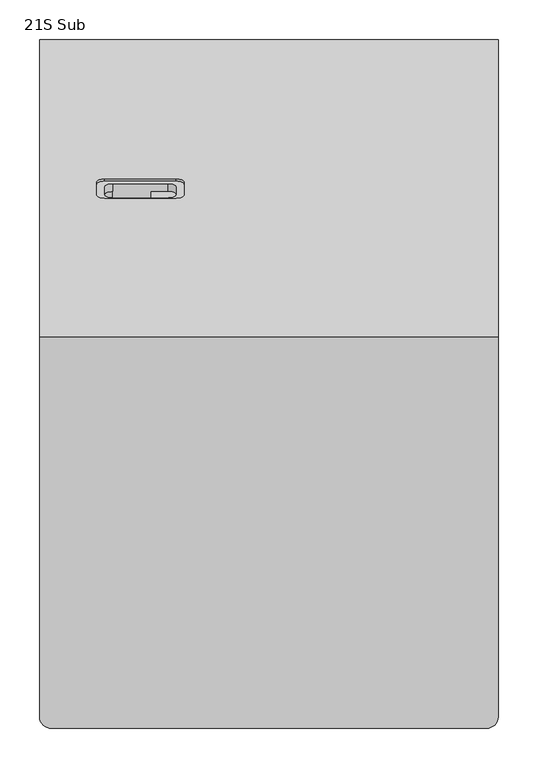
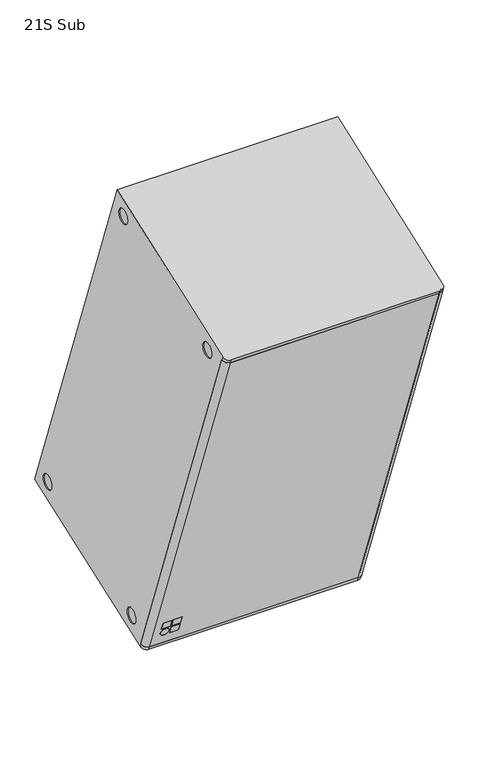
"""IFC4 building model written with IfcOpenShell, lengths in millimetres: proxy geometry, d&b xS-Series 21S Subwoofer : 21S Sub."""

from ifc_helpers import new_model, si_unit, point, frame, frame_2d, origin, place, context, project, spatial, polyline, circle_curve, trimmed, segment, composite_curve, outline, extrude, source, transform, mapped, element, save
from ifc_brep_helpers import plane_surface, cylinder_surface, revolved_surface, advanced_brep


def proxy_21s_sub_991d3e1e(model_context):
    return source(origin(), model_context, "Body", "SolidModel", [
        advanced_brep(
        [(-275.0, -101.3990461, -611.5622317), (-290.0, -87.3036568, -606.4319295), (-285.0, -87.3036568, -606.4319295), (-275.0, -96.700583, -609.852131), (275.0, -96.700583, -609.852131), (285.0, -87.3036568, -606.4319295), (290.0, -87.3036568, -606.4319295), (275.0, -101.3990461, -611.5622317), (-275.0, -470.7808009, 403.3057988), (275.0, -470.7808009, 403.3057988), (290.0, -456.6854116, 408.4361009), (285.0, -456.6854116, 408.4361009), (275.0, -466.0823378, 405.0158995), (-275.0, -466.0823378, 405.0158995), (-285.0, -456.6854116, 408.4361009), (-290.0, -456.6854116, 408.4361009), (-231.6666667, -128.7606575, -536.386822), (-231.6666667, -120.7801875, -558.3129832), (-255.0, -120.7801875, -558.3129832), (-255.0, -128.7606575, -536.386822), (-205.0, -128.7606575, -536.386822), (-205.0, -120.7801875, -558.3129832), (-228.3333333, -120.7801875, -558.3129832), (-228.3333333, -128.7606575, -536.386822), (-205.0, -119.6401204, -561.4452919), (-205.0, -111.6596504, -583.3714531), (-228.3333333, -111.6596504, -583.3714531), (-228.3333333, -119.6401204, -561.4452919), (-231.6666667, -115.6498854, -572.4083725), (-255.0, -115.6498854, -572.4083725), (-231.6666667, -116.0817244, -556.6028825), (-231.6666667, -124.0621944, -534.6767213), (-255.0, -124.0621944, -534.6767213), (-255.0, -116.0817244, -556.6028825), (-205.0, -116.0817244, -556.6028825), (-205.0, -124.0621944, -534.6767213), (-228.3333333, -124.0621944, -534.6767213), (-228.3333333, -116.0817244, -556.6028825), (-205.0, -106.9611873, -581.6613524), (-205.0, -114.9416573, -559.7351912), (-228.3333333, -114.9416573, -559.7351912), (-228.3333333, -106.9611873, -581.6613524), (-255.0, -110.9514223, -570.6982718), (-231.6666667, -110.9514223, -570.6982718)],
        [
            (0, 1, circle_curve(frame((-275.0, -87.3036568, -606.4319295), z_axis=(0.0, 0.3420201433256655, -0.9396926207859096), x_axis=(0.0, 0.9396926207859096, 0.3420201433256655)), 15.0)),
            (1, 2),
            (2, 3, circle_curve(frame((-275.0, -87.3036568, -606.4319295), z_axis=(0.0, -0.3420201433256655, 0.9396926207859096), x_axis=(0.0, 0.9396926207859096, 0.3420201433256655)), 10.0)),
            (3, 4),
            (4, 5, circle_curve(frame((275.0, -87.3036568, -606.4319295), z_axis=(0.0, -0.3420201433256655, 0.9396926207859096), x_axis=(0.0, 0.9396926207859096, 0.3420201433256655)), 10.0)),
            (5, 6),
            (6, 7, circle_curve(frame((275.0, -87.3036568, -606.4319295), z_axis=(0.0, 0.3420201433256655, -0.9396926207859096), x_axis=(0.0, 0.9396926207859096, 0.3420201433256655)), 15.0)),
            (7, 0),
            (8, 9),
            (9, 10, circle_curve(frame((275.0, -456.6854116, 408.4361009), z_axis=(0.0, -0.3420201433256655, 0.9396926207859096), x_axis=(0.0, 0.9396926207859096, 0.3420201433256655)), 15.0)),
            (10, 11),
            (11, 12, circle_curve(frame((275.0, -456.6854116, 408.4361009), z_axis=(0.0, 0.3420201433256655, -0.9396926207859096), x_axis=(0.0, 0.9396926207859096, 0.3420201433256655)), 10.0)),
            (12, 13),
            (13, 14, circle_curve(frame((-275.0, -456.6854116, 408.4361009), z_axis=(0.0, 0.3420201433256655, -0.9396926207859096), x_axis=(0.0, 0.9396926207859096, 0.3420201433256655)), 10.0)),
            (14, 15),
            (15, 8, circle_curve(frame((-275.0, -456.6854116, 408.4361009), z_axis=(0.0, -0.3420201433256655, 0.9396926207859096), x_axis=(0.0, 0.9396926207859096, 0.3420201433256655)), 15.0)),
            (6, 10),
            (9, 7),
            (8, 0),
            (16, 17),
            (17, 18),
            (18, 19),
            (19, 16),
            (20, 21),
            (21, 22),
            (22, 23),
            (23, 20),
            (24, 25),
            (25, 26),
            (26, 27),
            (27, 24),
            (28, 29, circle_curve(frame((-243.3333333, -115.6498854, -572.4083725), z_axis=(0.0, 0.9396926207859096, 0.3420201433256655), x_axis=(-1.0, 0.0, 0.0)), 11.6666667)),
            (29, 28, circle_curve(frame((-243.3333333, -115.6498854, -572.4083725), z_axis=(0.0, 0.9396926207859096, 0.3420201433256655), x_axis=(-1.0, 0.0, 0.0)), 11.6666667)),
            (15, 1),
            (14, 2),
            (13, 3),
            (12, 4),
            (30, 31),
            (31, 32),
            (32, 33),
            (33, 30),
            (34, 35),
            (35, 36),
            (36, 37),
            (37, 34),
            (38, 39),
            (39, 40),
            (40, 41),
            (41, 38),
            (42, 43, circle_curve(frame((-243.3333333, -110.9514223, -570.6982718), z_axis=(0.0, -0.9396926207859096, -0.3420201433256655), x_axis=(-1.0, 0.0, 0.0)), 11.6666667)),
            (43, 42, circle_curve(frame((-243.3333333, -110.9514223, -570.6982718), z_axis=(0.0, -0.9396926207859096, -0.3420201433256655), x_axis=(-1.0, 0.0, 0.0)), 11.6666667)),
            (11, 5),
            (16, 31),
            (30, 17),
            (33, 18),
            (32, 19),
            (20, 35),
            (34, 21),
            (37, 22),
            (36, 23),
            (24, 39),
            (38, 25),
            (41, 26),
            (40, 27),
            (28, 43),
            (42, 29),
        ],
        [
            plane_surface(frame((-275.0, -73.2082675, -601.3016274), z_axis=(0.0, 0.3420201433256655, -0.9396926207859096), x_axis=(1.0, 0.0, 0.0))),
            plane_surface(frame((-275.0, -442.5900222, 413.5664031), z_axis=(0.0, -0.3420201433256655, 0.9396926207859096), x_axis=(-1.0, 0.0, 0.0))),
            cylinder_surface(frame((275.0, -456.6854116, 408.4361009), z_axis=(0.0, 0.3420201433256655, -0.9396926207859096), x_axis=(0.0, 0.9396926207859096, 0.3420201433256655)), 15.0),
            plane_surface(frame((275.0, -101.3990461, -611.5622317), z_axis=(0.0, -0.9396926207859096, -0.3420201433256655), x_axis=(0.0, -0.3420201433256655, 0.9396926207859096))),
            cylinder_surface(frame((-275.0, -456.6854116, 408.4361009), z_axis=(0.0, 0.3420201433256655, -0.9396926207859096), x_axis=(0.0, 0.9396926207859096, 0.3420201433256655)), 15.0),
            plane_surface(frame((-290.0, -87.3036568, -606.4319295), z_axis=(0.0, 0.9396926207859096, 0.3420201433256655), x_axis=(0.0, -0.3420201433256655, 0.9396926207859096))),
            revolved_surface(polyline([(-275.0, -447.28848540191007, 411.8563023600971), (-275.0, -77.9067305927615, -603.0117281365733)]), (-275.0, -456.6854116, 408.4361009), (0.0, -0.3420201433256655, 0.9396926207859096)),
            plane_surface(frame((-275.0, -96.700583, -609.852131), z_axis=(0.0, 0.9396926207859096, 0.3420201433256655), x_axis=(0.0, -0.3420201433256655, 0.9396926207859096))),
            revolved_surface(polyline([(275.0, -447.28848540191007, 411.8563023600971), (275.0, -77.9067305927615, -603.0117281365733)]), (275.0, -456.6854116, 408.4361009), (0.0, -0.3420201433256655, 0.9396926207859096)),
            plane_surface(frame((285.0, -87.3036568, -606.4319295), z_axis=(0.0, 0.9396926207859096, 0.3420201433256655), x_axis=(0.0, -0.3420201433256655, 0.9396926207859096))),
            plane_surface(frame((-231.6666667, -120.7801875, -558.3129832), z_axis=(-1.0000000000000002, 0.0, 0.0), x_axis=(0.0, 0.9396926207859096, 0.3420201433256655))),
            plane_surface(frame((-255.0, -120.7801875, -558.3129832), z_axis=(0.0, -0.3420201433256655, 0.9396926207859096), x_axis=(0.0, 0.9396926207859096, 0.3420201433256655))),
            plane_surface(frame((-255.0, -128.7606575, -536.386822), z_axis=(1.0000000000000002, 0.0, 0.0), x_axis=(0.0, 0.9396926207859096, 0.3420201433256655))),
            plane_surface(frame((-231.6666667, -128.7606575, -536.386822), z_axis=(0.0, 0.3420201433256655, -0.9396926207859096), x_axis=(0.0, 0.9396926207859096, 0.3420201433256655))),
            plane_surface(frame((-205.0, -120.7801875, -558.3129832), z_axis=(-1.0000000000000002, 0.0, 0.0), x_axis=(0.0, 0.9396926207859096, 0.3420201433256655))),
            plane_surface(frame((-228.3333333, -120.7801875, -558.3129832), z_axis=(0.0, -0.3420201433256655, 0.9396926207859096), x_axis=(0.0, 0.9396926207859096, 0.3420201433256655))),
            plane_surface(frame((-228.3333333, -128.7606575, -536.386822), z_axis=(1.0000000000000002, 0.0, 0.0), x_axis=(0.0, 0.9396926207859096, 0.3420201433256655))),
            plane_surface(frame((-205.0, -128.7606575, -536.386822), z_axis=(0.0, 0.3420201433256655, -0.9396926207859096), x_axis=(0.0, 0.9396926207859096, 0.3420201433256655))),
            plane_surface(frame((-205.0, -111.6596504, -583.3714531), z_axis=(-1.0000000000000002, 0.0, 0.0), x_axis=(0.0, 0.9396926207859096, 0.3420201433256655))),
            plane_surface(frame((-228.3333333, -111.6596504, -583.3714531), z_axis=(0.0, -0.3420201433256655, 0.9396926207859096), x_axis=(0.0, 0.9396926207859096, 0.3420201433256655))),
            plane_surface(frame((-228.3333333, -119.6401204, -561.4452919), z_axis=(1.0000000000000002, 0.0, 0.0), x_axis=(0.0, 0.9396926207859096, 0.3420201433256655))),
            plane_surface(frame((-205.0, -119.6401204, -561.4452919), z_axis=(0.0, 0.3420201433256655, -0.9396926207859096), x_axis=(0.0, 0.9396926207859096, 0.3420201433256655))),
            revolved_surface(polyline([(-255.0, -115.6498854, -572.4083725), (-255.0, -110.95142230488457, -570.6982717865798)]), (-243.3333333, -115.6498854, -572.4083725), (0.0, -0.9396926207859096, -0.3420201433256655)),
        ],
        [
            (0, [[1, 2, 3, 4, 5, 6, 7, 8]]),
            (1, [[9, 10, 11, 12, 13, 14, 15, 16]]),
            (2, [[-7, 17, -10, 18]]),
            (3, [[-8, -18, -9, 19], [20, 21, 22, 23], [24, 25, 26, 27], [28, 29, 30, 31], [32, 33]]),
            (4, [[-1, -19, -16, 34]]),
            (5, [[-2, -34, -15, 35]]),
            (6, [[-3, -35, -14, 36]]),
            (7, [[-4, -36, -13, 37], [38, 39, 40, 41], [42, 43, 44, 45], [46, 47, 48, 49], [50, 51]]),
            (8, [[-5, -37, -12, 52]]),
            (9, [[-6, -52, -11, -17]]),
            (10, [[53, -38, 54, -20]]),
            (11, [[-54, -41, 55, -21]]),
            (12, [[-55, -40, 56, -22]]),
            (13, [[-53, -23, -56, -39]]),
            (14, [[57, -42, 58, -24]]),
            (15, [[-58, -45, 59, -25]]),
            (16, [[-59, -44, 60, -26]]),
            (17, [[-57, -27, -60, -43]]),
            (18, [[61, -46, 62, -28]]),
            (19, [[-62, -49, 63, -29]]),
            (20, [[-63, -48, 64, -30]]),
            (21, [[-61, -31, -64, -47]]),
            (22, [[65, -50, 66, -32]]),
            (22, [[-65, -33, -66, -51]]),
        ],
    ),
        extrude(outline(polyline([(0.0, -23.3333333), (0.0, 0.0), (5.0, 0.0), (5.0, -23.3333333), (0.0, -23.3333333)])), frame((-255.0, -120.7801875, -558.3129832), z_axis=(0.0, -0.3420201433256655, 0.9396926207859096), x_axis=(0.0, 0.9396926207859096, 0.3420201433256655)), (0.0, 0.0, 1.0), 23.3333333),
        extrude(outline(polyline([(0.0, -23.3333333), (0.0, 0.0), (5.0, 0.0), (5.0, -23.3333333), (0.0, -23.3333333)])), frame((-228.3333333, -120.7801875, -558.3129832), z_axis=(0.0, -0.3420201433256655, 0.9396926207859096), x_axis=(0.0, 0.9396926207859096, 0.3420201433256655)), (0.0, 0.0, 1.0), 23.3333333),
        extrude(outline(polyline([(0.0, -23.3333333), (0.0, 0.0), (5.0, 0.0), (5.0, -23.3333333), (0.0, -23.3333333)])), frame((-228.3333333, -111.6596504, -583.3714531), z_axis=(0.0, -0.3420201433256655, 0.9396926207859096), x_axis=(0.0, 0.9396926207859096, 0.3420201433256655)), (0.0, 0.0, 1.0), 23.3333333),
        extrude(outline(composite_curve([segment(trimmed(circle_curve(frame_2d((-17.5, -38.3333333)), 11.6666667), [point((-29.1666666, -38.3333333))], [point((-5.8333333, -38.3333333))], False, "CARTESIAN"), True, "CONTINUOUS"), segment(trimmed(circle_curve(frame_2d((-17.5, -38.3333333)), 11.6666667), [point((-5.8333333, -38.3333333))], [point((-29.1666666, -38.3333333))], False, "CARTESIAN"), True, "CONTINUOUS")], self_intersect=False)), frame((-260.8333333, -128.7606575, -536.386822), z_axis=(0.0, 0.9396926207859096, 0.3420201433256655), x_axis=(-1.0, 0.0, 0.0)), (0.0, 0.0, 1.0), 5.0),
        advanced_brep(
        [(-290.0, -87.3036568, -606.4319295), (-290.0, -456.6854116, 408.4361009), (-290.0, -460.105613, 417.8330271), (-290.0, 19.6074699, 592.4343103), (-290.0, 395.8296276, -441.2275726), (-290.0, -83.8834553, -615.8288558), (-290.0, -26.081644, 527.916833), (-290.0, 11.5060608, 541.5976388), (-290.0, -409.4762333, 388.3726146), (-290.0, -371.8885284, 402.0534203), (-290.0, 319.3587008, -421.172714), (-290.0, 356.9464056, -407.4919082), (-290.0, -64.0358885, -560.7169324), (-290.0, -26.4481837, -547.0361267), (290.0, 395.8296276, -441.2275726), (290.0, 19.6074699, 592.4343103), (-207.5, 195.7478437, 108.4926106), (-217.5, 199.1680452, 99.0956844), (-217.5, 216.2690523, 52.1110533), (-207.5, 219.6892538, 42.7141271), (-117.5, 219.6892538, 42.7141271), (-107.5, 216.2690523, 52.1110533), (-107.5, 199.1680452, 99.0956844), (-117.5, 195.7478437, 108.4926106), (290.0, -456.6854116, 408.4361009), (290.0, -87.3036568, -606.4319295), (290.0, -83.8834553, -615.8288558), (290.0, -460.105613, 417.8330271), (290.0, -14.1281944, 553.5510883), (290.0, -0.4473887, 515.9633835), (290.0, -397.5227837, 414.0068698), (290.0, -383.841978, 376.419165), (290.0, 331.3121503, -395.5384587), (290.0, 344.9929561, -433.1261635), (290.0, -52.082439, -535.0826772), (290.0, -38.4016332, -572.670382), (285.0, -456.6854116, 408.4361009), (285.0, -87.3036568, -606.4319295), (275.0, -466.0823378, 405.0158995), (275.0, -96.700583, -609.852131), (-275.0, -466.0823378, 405.0158995), (-275.0, -96.700583, -609.852131), (-285.0, -456.6854116, 408.4361009), (-285.0, -87.3036568, -606.4319295), (-275.0, -101.3990461, -611.5622317), (275.0, -101.3990461, -611.5622317), (275.0, -97.9788446, -620.9591579), (-275.0, -97.9788446, -620.9591579), (-245.0, -48.6449821, -603.0031004), (-245.0, -11.0572772, -589.3222946), (-245.0, 334.7496072, -463.4588819), (-245.0, 372.3373121, -449.7780762), (245.0, -48.6449821, -603.0031004), (245.0, -11.0572772, -589.3222946), (245.0, 334.7496072, -463.4588819), (245.0, 372.3373121, -449.7780762), (275.0, -470.7808009, 403.3057988), (-275.0, -470.7808009, 403.3057988), (-275.0, -474.2010023, 412.702725), (275.0, -474.2010023, 412.702725), (-217.5, 196.3489673, 98.0696239), (-207.5, 192.9287659, 107.4665501), (-117.5, 192.9287659, 107.4665501), (-107.5, 196.3489673, 98.0696239), (-107.5, 213.4499745, 51.0849929), (-117.5, 216.8701759, 41.6880667), (-207.5, 216.8701759, 41.6880667), (-217.5, 213.4499745, 51.0849929), (-197.5, 213.4499745, 51.0849929), (-127.5, 213.4499745, 51.0849929), (-117.5, 210.029773, 60.4819191), (-117.5, 199.7691687, 88.6726977), (-127.5, 196.3489673, 98.0696239), (-197.5, 196.3489673, 98.0696239), (-207.5, 199.7691687, 88.6726977), (-207.5, 210.029773, 60.4819191), (-127.5, 186.9520411, 94.6494225), (-117.5, 190.3722425, 85.2524963), (-117.5, 200.6328468, 57.0617177), (-127.5, 204.0530483, 47.6647915), (-148.7039304, 204.0530483, 47.6647915), (-148.7039304, 186.9520411, 94.6494225), (-197.5, 186.9520411, 94.6494225), (-207.5, 190.3722425, 85.2524963), (-197.5, 204.0530483, 47.6647915), (-207.5, 200.6328468, 57.0617177), (-148.7039304, 171.1638065, 35.6940864), (-197.5, 171.1638065, 35.6940864), (-207.5, 167.7436051, 45.0910127), (-207.5, 157.4830008, 73.2817913), (-197.5, 154.0627994, 82.6787175), (-148.7039304, 154.0627994, 82.6787175), (-287.0, -26.081644, 527.916833), (-287.0, 11.5060608, 541.5976388), (-287.0, -409.4762333, 388.3726146), (-287.0, -371.8885284, 402.0534203), (-287.0, 319.3587008, -421.172714), (-287.0, 356.9464056, -407.4919082), (-287.0, -64.0358885, -560.7169324), (-287.0, -26.4481837, -547.0361267), (287.0, -0.4473887, 515.9633835), (287.0, -14.1281944, 553.5510883), (287.0, -383.841978, 376.419165), (287.0, -397.5227837, 414.0068698), (287.0, 344.9929561, -433.1261635), (287.0, 331.3121503, -395.5384587), (287.0, -38.4016332, -572.670382), (287.0, -52.082439, -535.0826772), (-245.0, -49.6710425, -600.1840225), (-245.0, -12.0833377, -586.5032168), (-245.0, 333.7235468, -460.639804), (-245.0, 371.3112516, -446.9589983), (245.0, -49.6710425, -600.1840225), (245.0, -12.0833377, -586.5032168), (245.0, 333.7235468, -460.639804), (245.0, 371.3112516, -446.9589983)],
        [
            (0, 1),
            (1, 2),
            (2, 3),
            (3, 4),
            (4, 5),
            (5, 0),
            (6, 7, circle_curve(frame((-290.0, -7.2877916, 534.7572359), z_axis=(1.0, 0.0, 0.0), x_axis=(0.0, 0.9396926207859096, 0.3420201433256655)), 20.0)),
            (7, 6, circle_curve(frame((-290.0, -7.2877916, 534.7572359), z_axis=(1.0, 0.0, 0.0), x_axis=(0.0, 0.9396926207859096, 0.3420201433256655)), 20.0)),
            (8, 9, circle_curve(frame((-290.0, -390.6823808, 395.2130174), z_axis=(1.0, 0.0, 0.0), x_axis=(0.0, 0.9396926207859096, 0.3420201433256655)), 20.0)),
            (9, 8, circle_curve(frame((-290.0, -390.6823808, 395.2130174), z_axis=(1.0, 0.0, 0.0), x_axis=(0.0, 0.9396926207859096, 0.3420201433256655)), 20.0)),
            (10, 11, circle_curve(frame((-290.0, 338.1525532, -414.3323111), z_axis=(1.0, 0.0, 0.0), x_axis=(0.0, 0.9396926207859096, 0.3420201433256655)), 20.0)),
            (11, 10, circle_curve(frame((-290.0, 338.1525532, -414.3323111), z_axis=(1.0, 0.0, 0.0), x_axis=(0.0, 0.9396926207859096, 0.3420201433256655)), 20.0)),
            (12, 13, circle_curve(frame((-290.0, -45.2420361, -553.8765296), z_axis=(1.0, 0.0, 0.0), x_axis=(0.0, 0.9396926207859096, 0.3420201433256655)), 20.0)),
            (13, 12, circle_curve(frame((-290.0, -45.2420361, -553.8765296), z_axis=(1.0, 0.0, 0.0), x_axis=(0.0, 0.9396926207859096, 0.3420201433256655)), 20.0)),
            (14, 4),
            (3, 15),
            (15, 14),
            (16, 17, circle_curve(frame((-207.5, 199.1680452, 99.0956844), z_axis=(0.0, -0.9396926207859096, -0.3420201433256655), x_axis=(1.0, 0.0, 0.0)), 10.0)),
            (17, 18),
            (18, 19, circle_curve(frame((-207.5, 216.2690523, 52.1110533), z_axis=(0.0, -0.9396926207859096, -0.3420201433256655), x_axis=(1.0, 0.0, 0.0)), 10.0)),
            (19, 20),
            (20, 21, circle_curve(frame((-117.5, 216.2690523, 52.1110533), z_axis=(0.0, -0.9396926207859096, -0.3420201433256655), x_axis=(1.0, 0.0, 0.0)), 10.0)),
            (21, 22),
            (22, 23, circle_curve(frame((-117.5, 199.1680452, 99.0956844), z_axis=(0.0, -0.9396926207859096, -0.3420201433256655), x_axis=(1.0, 0.0, 0.0)), 10.0)),
            (23, 16),
            (24, 25),
            (25, 26),
            (26, 14),
            (15, 27),
            (27, 24),
            (28, 29, circle_curve(frame((290.0, -7.2877916, 534.7572359), z_axis=(-1.0, 0.0, 0.0), x_axis=(0.0, -0.3420201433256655, 0.9396926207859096)), 20.0)),
            (29, 28, circle_curve(frame((290.0, -7.2877916, 534.7572359), z_axis=(-1.0, 0.0, 0.0), x_axis=(0.0, -0.3420201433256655, 0.9396926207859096)), 20.0)),
            (30, 31, circle_curve(frame((290.0, -390.6823808, 395.2130174), z_axis=(-1.0, 0.0, 0.0), x_axis=(0.0, -0.3420201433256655, 0.9396926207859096)), 20.0)),
            (31, 30, circle_curve(frame((290.0, -390.6823808, 395.2130174), z_axis=(-1.0, 0.0, 0.0), x_axis=(0.0, -0.3420201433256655, 0.9396926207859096)), 20.0)),
            (32, 33, circle_curve(frame((290.0, 338.1525532, -414.3323111), z_axis=(-1.0, 0.0, 0.0), x_axis=(0.0, -0.3420201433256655, 0.9396926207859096)), 20.0)),
            (33, 32, circle_curve(frame((290.0, 338.1525532, -414.3323111), z_axis=(-1.0, 0.0, 0.0), x_axis=(0.0, -0.3420201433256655, 0.9396926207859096)), 20.0)),
            (34, 35, circle_curve(frame((290.0, -45.2420361, -553.8765296), z_axis=(-1.0, 0.0, 0.0), x_axis=(0.0, -0.3420201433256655, 0.9396926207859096)), 20.0)),
            (35, 34, circle_curve(frame((290.0, -45.2420361, -553.8765296), z_axis=(-1.0, 0.0, 0.0), x_axis=(0.0, -0.3420201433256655, 0.9396926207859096)), 20.0)),
            (24, 36),
            (36, 37),
            (37, 25),
            (36, 38, circle_curve(frame((275.0, -456.6854116, 408.4361009), z_axis=(0.0, 0.3420201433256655, -0.9396926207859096), x_axis=(0.0, 0.9396926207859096, 0.3420201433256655)), 10.0)),
            (38, 39),
            (39, 37, circle_curve(frame((275.0, -87.3036568, -606.4319295), z_axis=(0.0, -0.3420201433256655, 0.9396926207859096), x_axis=(0.0, 0.9396926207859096, 0.3420201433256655)), 10.0)),
            (38, 40),
            (40, 41),
            (41, 39),
            (40, 42, circle_curve(frame((-275.0, -456.6854116, 408.4361009), z_axis=(0.0, 0.3420201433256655, -0.9396926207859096), x_axis=(0.0, 0.9396926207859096, 0.3420201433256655)), 10.0)),
            (42, 43),
            (43, 41, circle_curve(frame((-275.0, -87.3036568, -606.4319295), z_axis=(0.0, -0.3420201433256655, 0.9396926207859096), x_axis=(0.0, 0.9396926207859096, 0.3420201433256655)), 10.0)),
            (0, 43),
            (42, 1),
            (0, 44, circle_curve(frame((-275.0, -87.3036568, -606.4319295), z_axis=(0.0, -0.342020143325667, 0.9396926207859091), x_axis=(0.0, 0.9396926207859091, 0.342020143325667)), 15.0)),
            (44, 45),
            (45, 25, circle_curve(frame((275.0, -87.3036568, -606.4319295), z_axis=(0.0, -0.342020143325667, 0.9396926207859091), x_axis=(0.0, 0.9396926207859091, 0.342020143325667)), 15.0)),
            (26, 46, circle_curve(frame((275.0, -83.8834553, -615.8288558), z_axis=(0.0, 0.342020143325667, -0.9396926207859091), x_axis=(0.0, 0.9396926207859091, 0.342020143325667)), 15.0)),
            (46, 47),
            (47, 5, circle_curve(frame((-275.0, -83.8834553, -615.8288558), z_axis=(0.0, 0.342020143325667, -0.9396926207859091), x_axis=(0.0, 0.9396926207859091, 0.342020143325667)), 15.0)),
            (48, 49, circle_curve(frame((-245.0, -29.8511296, -596.1626975), z_axis=(0.0, -0.342020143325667, 0.9396926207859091), x_axis=(0.0, 0.9396926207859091, 0.342020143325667)), 20.0)),
            (49, 48, circle_curve(frame((-245.0, -29.8511296, -596.1626975), z_axis=(0.0, -0.342020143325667, 0.9396926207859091), x_axis=(0.0, 0.9396926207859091, 0.342020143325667)), 20.0)),
            (50, 51, circle_curve(frame((-245.0, 353.5434596, -456.618479), z_axis=(0.0, -0.342020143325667, 0.9396926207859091), x_axis=(0.0, 0.9396926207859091, 0.342020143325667)), 20.0)),
            (51, 50, circle_curve(frame((-245.0, 353.5434596, -456.618479), z_axis=(0.0, -0.342020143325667, 0.9396926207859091), x_axis=(0.0, 0.9396926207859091, 0.342020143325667)), 20.0)),
            (52, 53, circle_curve(frame((245.0, -29.8511296, -596.1626975), z_axis=(0.0, -0.342020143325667, 0.9396926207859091), x_axis=(0.0, 0.9396926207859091, 0.342020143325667)), 20.0)),
            (53, 52, circle_curve(frame((245.0, -29.8511296, -596.1626975), z_axis=(0.0, -0.342020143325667, 0.9396926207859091), x_axis=(0.0, 0.9396926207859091, 0.342020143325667)), 20.0)),
            (54, 55, circle_curve(frame((245.0, 353.5434596, -456.618479), z_axis=(0.0, -0.342020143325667, 0.9396926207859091), x_axis=(0.0, 0.9396926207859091, 0.342020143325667)), 20.0)),
            (55, 54, circle_curve(frame((245.0, 353.5434596, -456.618479), z_axis=(0.0, -0.342020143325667, 0.9396926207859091), x_axis=(0.0, 0.9396926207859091, 0.342020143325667)), 20.0)),
            (45, 46),
            (44, 47),
            (24, 56, circle_curve(frame((275.0, -456.6854116, 408.4361009), z_axis=(0.0, 0.342020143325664, -0.9396926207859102), x_axis=(0.0, 0.9396926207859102, 0.342020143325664)), 15.0)),
            (56, 57),
            (57, 1, circle_curve(frame((-275.0, -456.6854116, 408.4361009), z_axis=(0.0, 0.342020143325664, -0.9396926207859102), x_axis=(0.0, 0.9396926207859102, 0.342020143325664)), 15.0)),
            (2, 58, circle_curve(frame((-275.0, -460.105613, 417.8330271), z_axis=(0.0, -0.342020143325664, 0.9396926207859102), x_axis=(0.0, 0.9396926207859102, 0.342020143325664)), 15.0)),
            (58, 59),
            (59, 27, circle_curve(frame((275.0, -460.105613, 417.8330271), z_axis=(0.0, -0.342020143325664, 0.9396926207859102), x_axis=(0.0, 0.9396926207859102, 0.342020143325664)), 15.0)),
            (59, 56),
            (58, 57),
            (60, 61, circle_curve(frame((-207.5, 196.3489673, 98.0696239), z_axis=(0.0, 0.9396926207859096, 0.3420201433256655), x_axis=(1.0, 0.0, 0.0)), 10.0)),
            (61, 62),
            (62, 63, circle_curve(frame((-117.5, 196.3489673, 98.0696239), z_axis=(0.0, 0.9396926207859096, 0.3420201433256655), x_axis=(1.0, 0.0, 0.0)), 10.0)),
            (63, 64),
            (64, 65, circle_curve(frame((-117.5, 213.4499745, 51.0849929), z_axis=(0.0, 0.9396926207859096, 0.3420201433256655), x_axis=(1.0, 0.0, 0.0)), 10.0)),
            (65, 66),
            (66, 67, circle_curve(frame((-207.5, 213.4499745, 51.0849929), z_axis=(0.0, 0.9396926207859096, 0.3420201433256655), x_axis=(1.0, 0.0, 0.0)), 10.0)),
            (67, 60),
            (68, 69),
            (69, 70, circle_curve(frame((-127.5, 210.029773, 60.4819191), z_axis=(0.0, -0.9396926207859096, -0.3420201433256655), x_axis=(1.0, 0.0, 0.0)), 10.0)),
            (70, 71),
            (71, 72, circle_curve(frame((-127.5, 199.7691687, 88.6726977), z_axis=(0.0, -0.9396926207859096, -0.3420201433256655), x_axis=(1.0, 0.0, 0.0)), 10.0)),
            (72, 73),
            (73, 74, circle_curve(frame((-197.5, 199.7691687, 88.6726977), z_axis=(0.0, -0.9396926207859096, -0.3420201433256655), x_axis=(1.0, 0.0, 0.0)), 10.0)),
            (74, 75),
            (75, 68, circle_curve(frame((-197.5, 210.029773, 60.4819191), z_axis=(0.0, -0.9396926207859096, -0.3420201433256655), x_axis=(1.0, 0.0, 0.0)), 10.0)),
            (60, 17),
            (16, 61),
            (23, 62),
            (22, 63),
            (21, 64),
            (20, 65),
            (19, 66),
            (18, 67),
            (76, 77, circle_curve(frame((-127.5, 190.3722425, 85.2524963), z_axis=(0.0, 0.9396926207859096, 0.3420201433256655), x_axis=(1.0, 0.0, 0.0)), 10.0)),
            (77, 78),
            (78, 79, circle_curve(frame((-127.5, 200.6328468, 57.0617177), z_axis=(0.0, 0.9396926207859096, 0.3420201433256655), x_axis=(1.0, 0.0, 0.0)), 10.0)),
            (79, 80),
            (80, 81),
            (81, 76),
            (78, 70),
            (69, 79),
            (77, 71),
            (76, 72),
            (73, 82),
            (82, 83, circle_curve(frame((-197.5, 190.3722425, 85.2524963), z_axis=(0.0, -0.9396926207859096, -0.3420201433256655), x_axis=(1.0, 0.0, 0.0)), 10.0)),
            (83, 74),
            (84, 68),
            (75, 85),
            (85, 84, circle_curve(frame((-197.5, 200.6328468, 57.0617177), z_axis=(0.0, -0.9396926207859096, -0.3420201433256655), x_axis=(1.0, 0.0, 0.0)), 10.0)),
            (86, 87),
            (87, 88, circle_curve(frame((-197.5, 167.7436051, 45.0910127), z_axis=(0.0, 0.9396926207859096, 0.3420201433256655), x_axis=(1.0, 0.0, 0.0)), 10.0)),
            (88, 89),
            (89, 90, circle_curve(frame((-197.5, 157.4830008, 73.2817913), z_axis=(0.0, 0.9396926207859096, 0.3420201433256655), x_axis=(1.0, 0.0, 0.0)), 10.0)),
            (90, 91),
            (91, 86),
            (91, 81),
            (80, 86),
            (84, 87),
            (85, 88),
            (83, 89),
            (82, 90),
            (92, 93, circle_curve(frame((-287.0, -7.2877916, 534.7572359), z_axis=(-1.0, 0.0, 0.0), x_axis=(0.0, 0.9396926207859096, 0.3420201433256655)), 20.0)),
            (93, 92, circle_curve(frame((-287.0, -7.2877916, 534.7572359), z_axis=(-1.0, 0.0, 0.0), x_axis=(0.0, 0.9396926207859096, 0.3420201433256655)), 20.0)),
            (94, 95, circle_curve(frame((-287.0, -390.6823808, 395.2130174), z_axis=(-1.0, 0.0, 0.0), x_axis=(0.0, 0.9396926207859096, 0.3420201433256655)), 20.0)),
            (95, 94, circle_curve(frame((-287.0, -390.6823808, 395.2130174), z_axis=(-1.0, 0.0, 0.0), x_axis=(0.0, 0.9396926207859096, 0.3420201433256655)), 20.0)),
            (96, 97, circle_curve(frame((-287.0, 338.1525532, -414.3323111), z_axis=(-1.0, 0.0, 0.0), x_axis=(0.0, 0.9396926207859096, 0.3420201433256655)), 20.0)),
            (97, 96, circle_curve(frame((-287.0, 338.1525532, -414.3323111), z_axis=(-1.0, 0.0, 0.0), x_axis=(0.0, 0.9396926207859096, 0.3420201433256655)), 20.0)),
            (98, 99, circle_curve(frame((-287.0, -45.2420361, -553.8765296), z_axis=(-1.0, 0.0, 0.0), x_axis=(0.0, 0.9396926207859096, 0.3420201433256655)), 20.0)),
            (99, 98, circle_curve(frame((-287.0, -45.2420361, -553.8765296), z_axis=(-1.0, 0.0, 0.0), x_axis=(0.0, 0.9396926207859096, 0.3420201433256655)), 20.0)),
            (93, 7),
            (6, 92),
            (95, 9),
            (8, 94),
            (97, 11),
            (10, 96),
            (99, 13),
            (12, 98),
            (100, 101, circle_curve(frame((287.0, -7.2877916, 534.7572359), z_axis=(1.0, 0.0, 0.0), x_axis=(0.0, -0.3420201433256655, 0.9396926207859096)), 20.0)),
            (101, 100, circle_curve(frame((287.0, -7.2877916, 534.7572359), z_axis=(1.0, 0.0, 0.0), x_axis=(0.0, -0.3420201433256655, 0.9396926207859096)), 20.0)),
            (102, 103, circle_curve(frame((287.0, -390.6823808, 395.2130174), z_axis=(1.0, 0.0, 0.0), x_axis=(0.0, -0.3420201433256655, 0.9396926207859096)), 20.0)),
            (103, 102, circle_curve(frame((287.0, -390.6823808, 395.2130174), z_axis=(1.0, 0.0, 0.0), x_axis=(0.0, -0.3420201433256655, 0.9396926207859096)), 20.0)),
            (104, 105, circle_curve(frame((287.0, 338.1525532, -414.3323111), z_axis=(1.0, 0.0, 0.0), x_axis=(0.0, -0.3420201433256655, 0.9396926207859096)), 20.0)),
            (105, 104, circle_curve(frame((287.0, 338.1525532, -414.3323111), z_axis=(1.0, 0.0, 0.0), x_axis=(0.0, -0.3420201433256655, 0.9396926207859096)), 20.0)),
            (106, 107, circle_curve(frame((287.0, -45.2420361, -553.8765296), z_axis=(1.0, 0.0, 0.0), x_axis=(0.0, -0.3420201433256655, 0.9396926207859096)), 20.0)),
            (107, 106, circle_curve(frame((287.0, -45.2420361, -553.8765296), z_axis=(1.0, 0.0, 0.0), x_axis=(0.0, -0.3420201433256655, 0.9396926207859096)), 20.0)),
            (100, 29),
            (28, 101),
            (102, 31),
            (30, 103),
            (104, 33),
            (32, 105),
            (106, 35),
            (34, 107),
            (108, 109, circle_curve(frame((-245.0, -30.8771901, -593.3436196), z_axis=(0.0, 0.342020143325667, -0.9396926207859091), x_axis=(0.0, 0.9396926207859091, 0.342020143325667)), 20.0)),
            (109, 108, circle_curve(frame((-245.0, -30.8771901, -593.3436196), z_axis=(0.0, 0.342020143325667, -0.9396926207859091), x_axis=(0.0, 0.9396926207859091, 0.342020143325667)), 20.0)),
            (110, 111, circle_curve(frame((-245.0, 352.5173992, -453.7994012), z_axis=(0.0, 0.342020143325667, -0.9396926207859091), x_axis=(0.0, 0.9396926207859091, 0.342020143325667)), 20.0)),
            (111, 110, circle_curve(frame((-245.0, 352.5173992, -453.7994012), z_axis=(0.0, 0.342020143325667, -0.9396926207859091), x_axis=(0.0, 0.9396926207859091, 0.342020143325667)), 20.0)),
            (112, 113, circle_curve(frame((245.0, -30.8771901, -593.3436196), z_axis=(0.0, 0.342020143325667, -0.9396926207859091), x_axis=(0.0, 0.9396926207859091, 0.342020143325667)), 20.0)),
            (113, 112, circle_curve(frame((245.0, -30.8771901, -593.3436196), z_axis=(0.0, 0.342020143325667, -0.9396926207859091), x_axis=(0.0, 0.9396926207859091, 0.342020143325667)), 20.0)),
            (114, 115, circle_curve(frame((245.0, 352.5173992, -453.7994012), z_axis=(0.0, 0.342020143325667, -0.9396926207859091), x_axis=(0.0, 0.9396926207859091, 0.342020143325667)), 20.0)),
            (115, 114, circle_curve(frame((245.0, 352.5173992, -453.7994012), z_axis=(0.0, 0.342020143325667, -0.9396926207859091), x_axis=(0.0, 0.9396926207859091, 0.342020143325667)), 20.0)),
            (109, 49),
            (48, 108),
            (111, 51),
            (50, 110),
            (113, 53),
            (52, 112),
            (115, 55),
            (54, 114),
        ],
        [
            plane_surface(frame((-290.0, -87.3036568, -606.4319295), z_axis=(-1.0000000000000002, 0.0, 0.0), x_axis=(0.0, -0.3420201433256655, 0.9396926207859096))),
            plane_surface(frame((-290.0, 392.4094261, -431.8306464), z_axis=(0.0, 0.9396926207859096, 0.3420201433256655), x_axis=(0.0, -0.3420201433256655, 0.9396926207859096))),
            plane_surface(frame((290.0, 392.4094261, -431.8306464), z_axis=(1.0000000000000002, 0.0, 0.0), x_axis=(0.0, -0.3420201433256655, 0.9396926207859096))),
            plane_surface(frame((290.0, -87.3036568, -606.4319295), z_axis=(0.0, -0.9396926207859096, -0.3420201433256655), x_axis=(0.0, -0.3420201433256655, 0.9396926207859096))),
            cylinder_surface(frame((275.0, -456.6854116, 408.4361009), z_axis=(0.0, 0.3420201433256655, -0.9396926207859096), x_axis=(0.0, 0.9396926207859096, 0.3420201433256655)), 10.0),
            plane_surface(frame((275.0, -96.700583, -609.852131), z_axis=(0.0, -0.9396926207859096, -0.3420201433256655), x_axis=(0.0, -0.3420201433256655, 0.9396926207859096))),
            cylinder_surface(frame((-275.0, -456.6854116, 408.4361009), z_axis=(0.0, 0.3420201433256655, -0.9396926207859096), x_axis=(0.0, 0.9396926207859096, 0.3420201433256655)), 10.0),
            plane_surface(frame((-285.0, -87.3036568, -606.4319295), z_axis=(0.0, -0.9396926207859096, -0.3420201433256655), x_axis=(0.0, -0.3420201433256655, 0.9396926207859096))),
            plane_surface(frame((290.0, 313.2403228, -460.6458435), z_axis=(0.0, -0.342020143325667, 0.9396926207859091), x_axis=(0.0, 0.9396926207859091, 0.342020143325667))),
            plane_surface(frame((290.0, 316.6605243, -470.0427697), z_axis=(0.0, 0.342020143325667, -0.9396926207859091), x_axis=(0.0, -0.9396926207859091, -0.342020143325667))),
            cylinder_surface(frame((275.0, -83.8834553, -615.8288558), z_axis=(0.0, -0.342020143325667, 0.9396926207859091), x_axis=(0.0, 0.9396926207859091, 0.342020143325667)), 15.0),
            plane_surface(frame((-275.0, -101.3990461, -611.5622317), z_axis=(0.0, -0.9396926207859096, -0.3420201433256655), x_axis=(0.0, 0.3420201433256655, -0.9396926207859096))),
            cylinder_surface(frame((-275.0, -83.8834553, -615.8288558), z_axis=(0.0, -0.342020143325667, 0.9396926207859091), x_axis=(0.0, 0.9396926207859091, 0.342020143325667)), 15.0),
            plane_surface(frame((275.0, -442.5900222, 413.5664031), z_axis=(0.0, 0.342020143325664, -0.9396926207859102), x_axis=(1.0, 0.0, 0.0))),
            plane_surface(frame((275.0, -446.0102237, 422.9633293), z_axis=(0.0, -0.342020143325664, 0.9396926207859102), x_axis=(-1.0, 0.0, 0.0))),
            cylinder_surface(frame((275.0, -460.105613, 417.8330271), z_axis=(0.0, 0.342020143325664, -0.9396926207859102), x_axis=(0.0, 0.9396926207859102, 0.342020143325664)), 15.0),
            plane_surface(frame((275.0, -470.7808009, 403.3057988), z_axis=(0.0, -0.9396926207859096, -0.3420201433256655), x_axis=(0.0, -0.3420201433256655, 0.9396926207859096))),
            cylinder_surface(frame((-275.0, -460.105613, 417.8330271), z_axis=(0.0, 0.342020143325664, -0.9396926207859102), x_axis=(0.0, 0.9396926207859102, 0.342020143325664)), 15.0),
            plane_surface(frame((-197.5, 196.3489673, 98.0696239), z_axis=(0.0, 0.9396926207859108, 0.3420201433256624), x_axis=(0.0, -0.3420201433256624, 0.9396926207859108))),
            revolved_surface(polyline([(-197.5, 199.16804521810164, 99.09568435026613), (-197.5, 196.3489673, 98.0696239)]), (-207.5, 196.3489673, 98.0696239), (0.0, 0.9396926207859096, 0.3420201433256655)),
            plane_surface(frame((-207.5, 195.7478437, 108.4926106), z_axis=(0.0, 0.3420201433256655, -0.9396926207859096), x_axis=(0.0, -0.9396926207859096, -0.3420201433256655))),
            revolved_surface(polyline([(-107.5, 199.16804521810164, 99.09568435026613), (-107.5, 196.3489673, 98.0696239)]), (-117.5, 196.3489673, 98.0696239), (0.0, 0.9396926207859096, 0.3420201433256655)),
            plane_surface(frame((-107.5, 199.1680452, 99.0956844), z_axis=(-1.0000000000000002, 0.0, 0.0), x_axis=(0.0, -0.9396926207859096, -0.3420201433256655))),
            revolved_surface(polyline([(-107.5, 216.26905235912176, 52.1110533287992), (-107.5, 213.4499744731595, 51.08499289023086)]), (-117.5, 213.4499745, 51.0849929), (0.0, 0.9396926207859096, 0.3420201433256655)),
            plane_surface(frame((-117.5, 219.6892538, 42.7141271), z_axis=(0.0, -0.3420201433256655, 0.9396926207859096), x_axis=(0.0, -0.9396926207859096, -0.3420201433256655))),
            revolved_surface(polyline([(-197.5, 216.26905235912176, 52.1110533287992), (-197.5, 213.4499744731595, 51.08499289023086)]), (-207.5, 213.4499745, 51.0849929), (0.0, 0.9396926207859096, 0.3420201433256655)),
            plane_surface(frame((-217.5, 216.2690523, 52.1110533), z_axis=(1.0000000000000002, 0.0, 0.0), x_axis=(0.0, -0.9396926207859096, -0.3420201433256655))),
            plane_surface(frame((-187.5, 200.6328468, 57.0617177), z_axis=(0.0, 0.9396926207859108, 0.3420201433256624), x_axis=(0.0, -0.3420201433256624, 0.9396926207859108))),
            revolved_surface(polyline([(-117.5, 210.0297730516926, 60.48191914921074), (-117.5, 200.6328468, 57.0617177)]), (-127.5, 200.6328468, 57.0617177), (0.0, 0.9396926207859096, 0.3420201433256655)),
            plane_surface(frame((-117.5, 199.7691687, 88.6726977), z_axis=(-1.0000000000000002, 0.0, 0.0), x_axis=(0.0, -0.9396926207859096, -0.3420201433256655))),
            revolved_surface(polyline([(-117.5, 199.76916871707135, 88.67269773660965), (-117.5, 190.3722425, 85.2524963)]), (-127.5, 190.3722425, 85.2524963), (0.0, 0.9396926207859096, 0.3420201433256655)),
            revolved_surface(polyline([(-187.5, 199.76916871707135, 88.67269773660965), (-187.5, 190.3722425, 85.2524963)]), (-197.5, 190.3722425, 85.2524963), (0.0, 0.9396926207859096, 0.3420201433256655)),
            revolved_surface(polyline([(-187.5, 210.0297730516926, 60.48191914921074), (-187.5, 200.6328468, 57.0617177)]), (-197.5, 200.6328468, 57.0617177), (0.0, 0.9396926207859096, 0.3420201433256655)),
            plane_surface(frame((-197.5, 171.1638065, 35.6940864), z_axis=(0.0, 0.9396926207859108, 0.3420201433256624), x_axis=(1.0, 0.0, 0.0))),
            plane_surface(frame((-148.7039304, 186.9520411, 94.6494225), z_axis=(-1.0000000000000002, 0.0, 0.0), x_axis=(0.0, -0.939692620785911, -0.34202014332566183))),
            plane_surface(frame((-148.7039304, 204.0530483, 47.6647915), z_axis=(0.0, -0.34202014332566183, 0.939692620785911), x_axis=(0.0, -0.939692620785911, -0.34202014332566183))),
            revolved_surface(polyline([(-187.5, 200.6328468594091, 57.06171772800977), (-187.5, 167.74360504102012, 45.091012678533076)]), (-197.5, 167.7436051, 45.0910127), (0.0, 0.9396926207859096, 0.3420201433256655)),
            plane_surface(frame((-207.5, 200.6328468, 57.0617177), z_axis=(1.0000000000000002, 0.0, 0.0), x_axis=(0.0, -0.939692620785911, -0.34202014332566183))),
            revolved_surface(polyline([(-187.5, 190.3722425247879, 85.25249631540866), (-187.5, 157.4830008, 73.2817913)]), (-197.5, 157.4830008, 73.2817913), (0.0, 0.9396926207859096, 0.3420201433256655)),
            plane_surface(frame((-197.5, 186.9520411, 94.6494225), z_axis=(0.0, 0.34202014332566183, -0.939692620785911), x_axis=(0.0, -0.939692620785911, -0.34202014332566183))),
            plane_surface(frame((-287.0, 11.5060608, 541.5976388), z_axis=(-1.0000000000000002, 0.0, 0.0), x_axis=(0.0, -0.3420201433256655, 0.9396926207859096))),
            revolved_surface(polyline([(-287.0, 11.506060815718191, 541.5976387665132), (-290.0, 11.506060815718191, 541.5976387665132)]), (-290.0, -7.2877916, 534.7572359), (1.0, 0.0, 0.0)),
            revolved_surface(polyline([(-287.0, -371.8885283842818, 402.05342026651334), (-290.0, -371.8885283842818, 402.05342026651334)]), (-258.0, -390.6823808, 395.2130174), (1.0, 0.0, 0.0)),
            revolved_surface(polyline([(-287.0, 356.94640561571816, -407.4919082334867), (-290.0, 356.94640561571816, -407.4919082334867)]), (-258.0, 338.1525532, -414.3323111), (1.0, 0.0, 0.0)),
            revolved_surface(polyline([(-287.0, -26.44818368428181, -547.0361267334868), (-290.0, -26.44818368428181, -547.0361267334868)]), (-258.0, -45.2420361, -553.8765296), (1.0, 0.0, 0.0)),
            plane_surface(frame((287.0, -14.1281944, 553.5510883), z_axis=(1.0000000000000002, 0.0, 0.0), x_axis=(0.0, 0.9396926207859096, 0.3420201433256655))),
            revolved_surface(polyline([(290.0, -14.12819446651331, 553.5510883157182), (287.0, -14.12819446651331, 553.5510883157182)]), (287.0, -7.2877916, 534.7572359), (1.0, 0.0, 0.0)),
            revolved_surface(polyline([(290.0, -397.5227836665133, 414.00686981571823), (287.0, -397.5227836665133, 414.00686981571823)]), (319.0, -390.6823808, 395.2130174), (1.0, 0.0, 0.0)),
            revolved_surface(polyline([(290.0, 331.31215033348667, -395.53845868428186), (287.0, 331.31215033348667, -395.53845868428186)]), (319.0, 338.1525532, -414.3323111), (1.0, 0.0, 0.0)),
            revolved_surface(polyline([(290.0, -52.08243896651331, -535.0826771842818), (287.0, -52.08243896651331, -535.0826771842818)]), (319.0, -45.2420361, -553.8765296), (1.0, 0.0, 0.0)),
            plane_surface(frame((-245.0, -12.0833377, -586.5032168), z_axis=(0.0, 0.342020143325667, -0.9396926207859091), x_axis=(-1.0, 0.0, 0.0))),
            revolved_surface(polyline([(-245.0, -12.083337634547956, -586.503216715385), (-245.0, -11.057277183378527, -589.3222946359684)]), (-245.0, -29.8511296, -596.1626975), (0.0, -0.342020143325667, 0.9396926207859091)),
            revolved_surface(polyline([(-245.0, 371.3112515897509, -446.9589982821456), (-245.0, 372.33731204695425, -449.7780762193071)]), (-245.0, 353.5434596, -456.618479), (0.0, -0.342020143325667, 0.9396926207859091)),
            revolved_surface(polyline([(245.0, -12.083337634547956, -586.503216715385), (245.0, -11.057277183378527, -589.3222946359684)]), (245.0, -29.8511296, -596.1626975), (0.0, -0.342020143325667, 0.9396926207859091)),
            revolved_surface(polyline([(245.0, 371.3112515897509, -446.9589982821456), (245.0, 372.33731204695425, -449.7780762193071)]), (245.0, 353.5434596, -456.618479), (0.0, -0.342020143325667, 0.9396926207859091)),
        ],
        [
            (0, [[1, 2, 3, 4, 5, 6], [7, 8], [9, 10], [11, 12], [13, 14]]),
            (1, [[15, -4, 16, 17], [18, 19, 20, 21, 22, 23, 24, 25]]),
            (2, [[26, 27, 28, -17, 29, 30], [31, 32], [33, 34], [35, 36], [37, 38]]),
            (3, [[-26, 39, 40, 41]]),
            (4, [[-40, 42, 43, 44]]),
            (5, [[-43, 45, 46, 47]]),
            (6, [[-46, 48, 49, 50]]),
            (7, [[-1, 51, -49, 52]]),
            (8, [[53, 54, 55, -41, -44, -47, -50, -51]]),
            (9, [[56, 57, 58, -5, -15, -28], [59, 60], [61, 62], [63, 64], [65, 66]]),
            (10, [[-55, 67, -56, -27]]),
            (11, [[-54, 68, -57, -67]]),
            (12, [[-53, -6, -58, -68]]),
            (13, [[69, 70, 71, -52, -48, -45, -42, -39]]),
            (14, [[-29, -16, -3, 72, 73, 74]]),
            (15, [[-69, -30, -74, 75]]),
            (16, [[-70, -75, -73, 76]]),
            (17, [[-71, -76, -72, -2]]),
            (18, [[77, 78, 79, 80, 81, 82, 83, 84], [85, 86, 87, 88, 89, 90, 91, 92]]),
            (19, [[-77, 93, -18, 94]]),
            (20, [[-78, -94, -25, 95]]),
            (21, [[-79, -95, -24, 96]]),
            (22, [[-80, -96, -23, 97]]),
            (23, [[-81, -97, -22, 98]]),
            (24, [[-82, -98, -21, 99]]),
            (25, [[-83, -99, -20, 100]]),
            (26, [[-84, -100, -19, -93]]),
            (27, [[101, 102, 103, 104, 105, 106]]),
            (28, [[-103, 107, -86, 108]]),
            (29, [[-102, 109, -87, -107]]),
            (30, [[-101, 110, -88, -109]]),
            (31, [[111, 112, 113, -90]]),
            (32, [[114, -92, 115, 116]]),
            (33, [[117, 118, 119, 120, 121, 122]]),
            (34, [[-122, 123, -105, 124]]),
            (35, [[-117, -124, -104, -108, -85, -114, 125]]),
            (36, [[-118, -125, -116, 126]]),
            (37, [[-119, -126, -115, -91, -113, 127]]),
            (38, [[-120, -127, -112, 128]]),
            (39, [[-121, -128, -111, -89, -110, -106, -123]]),
            (40, [[129, 130]]),
            (40, [[131, 132]]),
            (40, [[133, 134]]),
            (40, [[135, 136]]),
            (41, [[-130, 137, -7, 138]]),
            (41, [[-129, -138, -8, -137]]),
            (42, [[-132, 139, -9, 140]]),
            (42, [[-131, -140, -10, -139]]),
            (43, [[-134, 141, -11, 142]]),
            (43, [[-133, -142, -12, -141]]),
            (44, [[-136, 143, -13, 144]]),
            (44, [[-135, -144, -14, -143]]),
            (45, [[145, 146]]),
            (45, [[147, 148]]),
            (45, [[149, 150]]),
            (45, [[151, 152]]),
            (46, [[-145, 153, -31, 154]]),
            (46, [[-146, -154, -32, -153]]),
            (47, [[-147, 155, -33, 156]]),
            (47, [[-148, -156, -34, -155]]),
            (48, [[-149, 157, -35, 158]]),
            (48, [[-150, -158, -36, -157]]),
            (49, [[-151, 159, -37, 160]]),
            (49, [[-152, -160, -38, -159]]),
            (50, [[161, 162]]),
            (50, [[163, 164]]),
            (50, [[165, 166]]),
            (50, [[167, 168]]),
            (51, [[-162, 169, -59, 170]]),
            (51, [[-161, -170, -60, -169]]),
            (52, [[-164, 171, -61, 172]]),
            (52, [[-163, -172, -62, -171]]),
            (53, [[-166, 173, -63, 174]]),
            (53, [[-165, -174, -64, -173]]),
            (54, [[-168, 175, -65, 176]]),
            (54, [[-167, -176, -66, -175]]),
        ],
    ),
    ])


if __name__ == "__main__":
    model = new_model("IFC4")
    model_context = context("Model", 3, world=origin())
    ifc_project = project(units=[si_unit("LENGTHUNIT", "METRE", prefix="MILLI")], contexts=[model_context])
    site = spatial("IfcSite", under=ifc_project)
    building = spatial("IfcBuilding", under=site)
    placement = place(None, origin())
    proxy_21s_sub_shape = proxy_21s_sub_991d3e1e(model_context)
    element("IfcBuildingElementProxy", 1, Name="d&b xS-Series 21S Subwoofer : 21S Sub", ObjectType="d&b xS-Series 21S Subwoofer : 21S Sub", at=placement, inside=building, context=model_context, shape_type="MappedRepresentation", body=[
        mapped(proxy_21s_sub_shape, transform((0.0, 0.0, 0.0), x_axis=(1.0, 0.0, 0.0), y_axis=(0.0, 1.0, 0.0), z_axis=(0.0, 0.0, 1.0))),
    ])
    save(model, "model.ifc")
